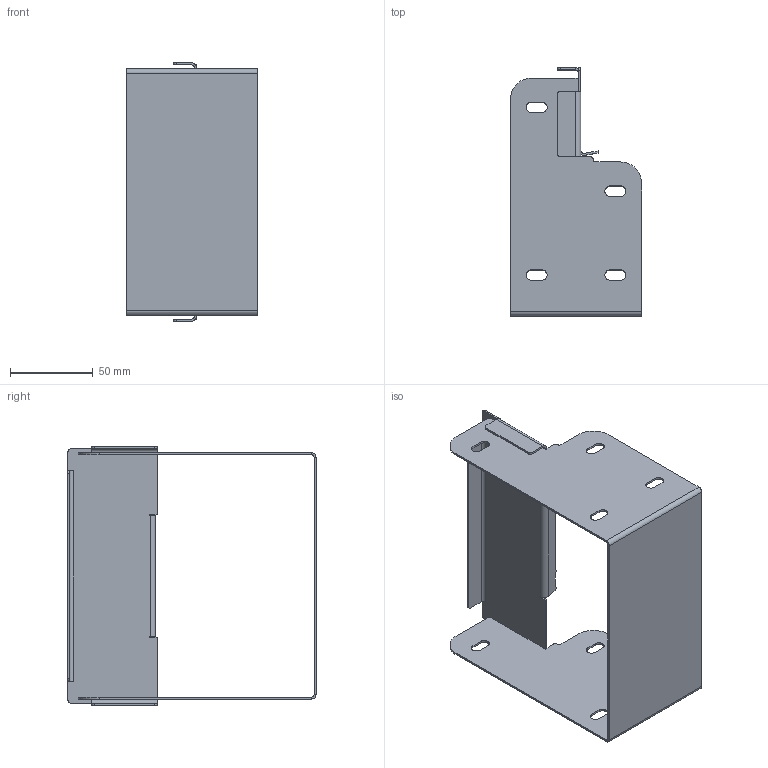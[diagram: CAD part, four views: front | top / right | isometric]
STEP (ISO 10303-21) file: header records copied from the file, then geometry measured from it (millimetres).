
FILE_DESCRIPTION (( 'STEP AP214' ), '1' );
FILE_NAME ('ct6646rss.STEP', '2007-05-30T15:55:30', ( '' ), ( '' ), 'SwSTEP 2.0', 'SolidWorks 2007', '' );
FILE_SCHEMA (( 'AUTOMOTIVE_DESIGN' ));
Length unit declared in the file: inch
Products named in the file (3): Cover Reducer_87797410_(6X6-6X4); ct6646rss; Reducer(6X6-6X4)_87796931
Assembly tree (2 placements, depth 2):
  ct6646rss
    Cover Reducer_87797410_(6X6-6X4)
    Reducer(6X6-6X4)_87796931
Bounding box: 79.38 x 150.24 x 156.42 mm (x, y, z)
Volume: 50022.4 mm3; surface area: 84573.3 mm2
Topology: 2 solids, 2 shells, 158 faces, 426 edges, 272 vertices
Faces by surface type: plane 90, cylinder 68
Entity records: 5072 total; most frequent: DIRECTION 892, CARTESIAN_POINT 861, ORIENTED_EDGE 852, EDGE_CURVE 426, AXIS2_PLACEMENT_3D 303, VECTOR 286, LINE 286, VERTEX_POINT 272
